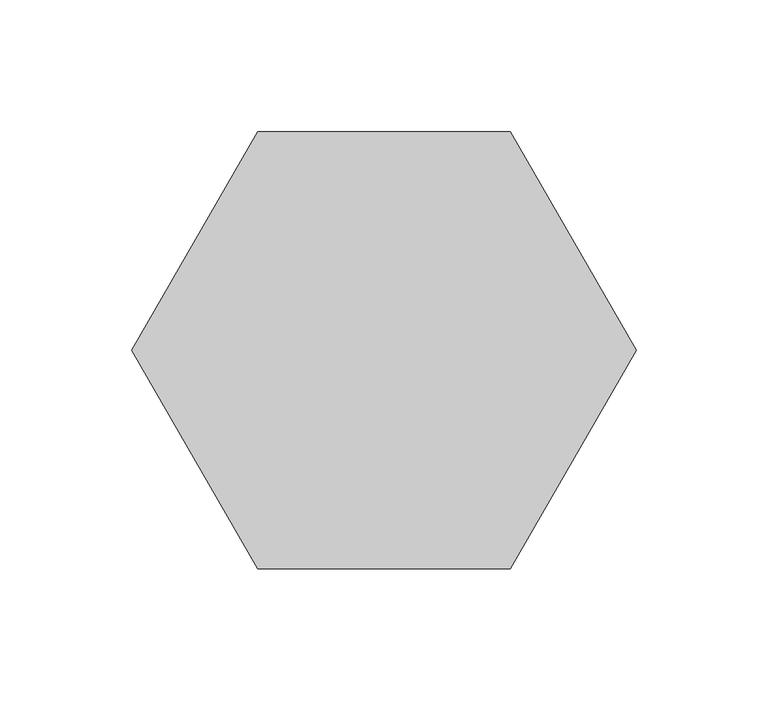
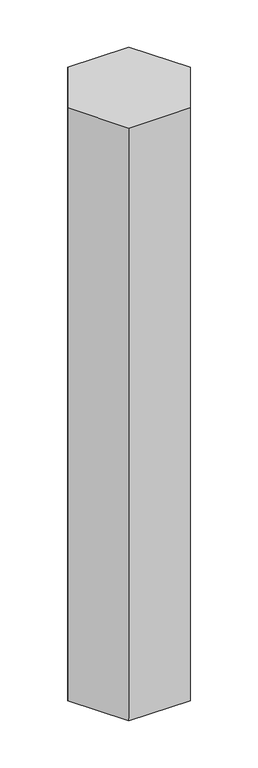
"""IFC4 building model written with IfcOpenShell, lengths in millimetres: geographic element geometry, Enscape AssetDefinition - Pathway Lamp 002 : Enscape AssetDefinition - Pathway Lamp 002."""

import ifcopenshell
import ifcopenshell.guid

model = None  # the IFC model being written
_history = None  # IfcOwnerHistory: only IFC2X3 demands one
_inside = {}  # id of a spatial element -> (the spatial element, [elements in it])
_under = {}  # id of a project, library or spatial element -> (it, [spatial elements below it])
_declared = {}  # id of a project -> (the project, [libraries it declares])
_typed = {}  # id of a type object -> (the type object, [elements of that type])
_made_of = {}  # id of a material, layer set ... -> (it, [elements and type objects made of it])


def new_model(schema):
    """Start an empty IFC model of exactly this schema.

    Asked for "IFC4X3", IfcOpenShell would pick the latest addendum, in which some entities
    have other attributes; the version numbers below select the first issue.
    IFC2X3 requires an IfcOwnerHistory on every rooted entity: one is made here for all.
    """
    global model, _history
    if schema == "IFC4X3":
        model = ifcopenshell.file(schema_version=(4, 3, 0, 0))
    else:
        model = ifcopenshell.file(schema=schema)
    _inside.clear()
    _under.clear()
    _declared.clear()
    _typed.clear()
    _made_of.clear()
    _history = None
    if model.schema == "IFC2X3":
        org = make("IfcOrganization", Name="unknown")
        user = make(
            "IfcPersonAndOrganization",
            ThePerson=make("IfcPerson", FamilyName="unknown"),
            TheOrganization=org,
        )
        app = make(
            "IfcApplication",
            ApplicationDeveloper=org,
            Version="unknown",
            ApplicationFullName="unknown",
            ApplicationIdentifier="unknown",
        )
        _history = make(
            "IfcOwnerHistory",
            OwningUser=user,
            OwningApplication=app,
            ChangeAction="ADDED",
            CreationDate=0,
        )
    return model


def make(cls, **values):
    """One entity of the class cls with the attributes given. An attribute that is None is left unset."""
    return model.create_entity(
        cls, **{name: value for name, value in values.items() if value is not None}
    )


def rooted(cls, **values):
    """An entity with a GlobalId (a new one), such as an element, a storey or a relation."""
    return make(cls, GlobalId=ifcopenshell.guid.new(), OwnerHistory=_history, **values)


def si_unit(unit_type, name, prefix=None):
    """IfcSIUnit, for example si_unit("LENGTHUNIT", "METRE", prefix="MILLI")."""
    return make("IfcSIUnit", UnitType=unit_type, Prefix=prefix, Name=name)


def assignment(units):
    """IfcUnitAssignment: the units of a project."""
    return None if units is None else make("IfcUnitAssignment", Units=units)


def point(xyz):
    """IfcCartesianPoint."""
    return None if xyz is None else make("IfcCartesianPoint", Coordinates=xyz)


def direction(xyz):
    """IfcDirection."""
    return None if xyz is None else make("IfcDirection", DirectionRatios=xyz)


def frame(location, z_axis=None, x_axis=None):
    """IfcAxis2Placement3D, a coordinate frame: its origin and axes. An axis left out is left unset."""
    return make(
        "IfcAxis2Placement3D",
        Location=point(location),
        Axis=direction(z_axis),
        RefDirection=direction(x_axis),
    )


def origin():
    """The frame at (0, 0, 0) with its axes left unset."""
    return frame((0.0, 0.0, 0.0))


def place(relative_to, where):
    """IfcLocalPlacement: puts the frame where relative to a parent placement (None: the world)."""
    return make(
        "IfcLocalPlacement", PlacementRelTo=relative_to, RelativePlacement=where
    )


def context(
    kind, dimensions, precision=None, world=None, true_north=None, identifier=None
):
    """IfcGeometricRepresentationContext, for example the 3D "Model" context."""
    return make(
        "IfcGeometricRepresentationContext",
        ContextIdentifier=identifier,
        ContextType=kind,
        CoordinateSpaceDimension=dimensions,
        Precision=precision,
        WorldCoordinateSystem=world,
        TrueNorth=true_north,
    )


def project(units=None, contexts=None):
    """IfcProject with its units and contexts."""
    return rooted(
        "IfcProject",
        Name="project",
        RepresentationContexts=contexts,
        UnitsInContext=assignment(units),
    )


def spatial(cls, under=None, at=None, **own):
    """A site, building, storey or space (cls), placed at a placement, below another one or the project."""
    s = rooted(cls, ObjectPlacement=at, **own)
    if under is not None:
        _under.setdefault(under.id(), (under, []))[1].append(s)
    return s


def point_list(points):
    """IfcCartesianPointList2D or 3D."""
    cls = (
        "IfcCartesianPointList2D" if len(points[0]) == 2 else "IfcCartesianPointList3D"
    )
    return make(cls, CoordList=points)


def triangles(points, corners, closed=None, point_numbers=None):
    """IfcTriangulatedFaceSet: each triangle names its three corners, points numbered from 1."""
    return make(
        "IfcTriangulatedFaceSet",
        Coordinates=point_list(points),
        Closed=closed,
        CoordIndex=corners,
        PnIndex=point_numbers,
    )


def shape(context_of_items, identifier, shape_type, items):
    """IfcShapeRepresentation: the items that make up one representation, for example the "Body"."""
    return make(
        "IfcShapeRepresentation",
        ContextOfItems=context_of_items,
        RepresentationIdentifier=identifier,
        RepresentationType=shape_type,
        Items=items,
    )


def source(mapping_origin, context_of_items, identifier, shape_type, items):
    """IfcRepresentationMap: a shape defined once, which mapped items show again and again."""
    return make(
        "IfcRepresentationMap",
        MappingOrigin=mapping_origin,
        MappedRepresentation=shape(context_of_items, identifier, shape_type, items),
    )


def transform(
    local_origin,
    x_axis=None,
    y_axis=None,
    z_axis=None,
    scale=None,
    scale2=None,
    scale3=None,
    uniform=True,
):
    """IfcCartesianTransformationOperator3D, or its non-uniform kind. x_axis, y_axis, z_axis: its Axis1, 2, 3."""
    if uniform:
        return make(
            "IfcCartesianTransformationOperator3D",
            Axis1=direction(x_axis),
            Axis2=direction(y_axis),
            LocalOrigin=point(local_origin),
            Scale=scale,
            Axis3=direction(z_axis),
        )
    return make(
        "IfcCartesianTransformationOperator3DnonUniform",
        Axis1=direction(x_axis),
        Axis2=direction(y_axis),
        LocalOrigin=point(local_origin),
        Scale=scale,
        Axis3=direction(z_axis),
        Scale2=scale2,
        Scale3=scale3,
    )


def mapped(mapping_source, mapping_target):
    """IfcMappedItem: shows the shape of a source again, moved by a transform."""
    return make(
        "IfcMappedItem", MappingSource=mapping_source, MappingTarget=mapping_target
    )


def made_of(thing, what):
    """Note that an element or type object is made of a material, layer set ...; save() writes the relation."""
    if what is not None:
        _made_of.setdefault(what.id(), (what, []))[1].append(thing)
    return thing


def element(
    cls,
    number,
    at=None,
    inside=None,
    cuts=None,
    type_object=None,
    material=None,
    context=None,
    identifier="Body",
    shape_type=None,
    held_by="IfcProductDefinitionShape",
    body=None,
    shapes=None,
    **own,
):
    """One element of the class cls, such as IfcWall. Its Tag is "e" and its number.

    at: its placement. inside: the storey or other place that contains it. cuts: it is an
    opening in that element (IfcRelVoidsElement). A single representation is given by context,
    identifier, shape_type and body (its items); several are given by shapes. held_by: the class
    of the entity that holds the representations. save() writes the other relations.
    """
    e = rooted(cls, Tag="e%d" % number, ObjectPlacement=at, **own)
    if body is not None:
        shapes = [shape(context, identifier, shape_type, body)]
    if shapes is not None:
        e.Representation = make(held_by, Representations=shapes)
    if inside is not None:
        _inside.setdefault(inside.id(), (inside, []))[1].append(e)
    if cuts is not None:
        rooted(
            "IfcRelVoidsElement", RelatingBuildingElement=cuts, RelatedOpeningElement=e
        )
    if type_object is not None:
        _typed.setdefault(type_object.id(), (type_object, []))[1].append(e)
    return made_of(e, material)


def aggregate(whole, parts):
    """IfcRelAggregates: a whole, such as a stair, and the parts it consists of."""
    return rooted("IfcRelAggregates", RelatingObject=whole, RelatedObjects=parts)


def save(model, path):
    """Write the relations noted so far, then the file.

    IfcRelAggregates (storeys below a building ...), IfcRelContainedInSpatialStructure (elements
    in a storey), IfcRelDefinesByType, IfcRelAssociatesMaterial and IfcRelDeclares: one each for
    every whole, place, type object, material and project.
    """
    for whole, parts in _under.values():
        aggregate(whole, parts)
    for where, things in _inside.values():
        rooted(
            "IfcRelContainedInSpatialStructure",
            RelatedElements=things,
            RelatingStructure=where,
        )
    for kind, things in _typed.values():
        rooted("IfcRelDefinesByType", RelatedObjects=things, RelatingType=kind)
    for what, things in _made_of.values():
        rooted("IfcRelAssociatesMaterial", RelatedObjects=things, RelatingMaterial=what)
    for by, libraries in _declared.values():
        rooted("IfcRelDeclares", RelatingContext=by, RelatedDefinitions=libraries)
    model.write(path)


def geographic_element_c9fdac9c(model_context):
    return source(origin(), model_context, "Body", "Tessellation", [
        triangles([(-47.7953203, -82.7836189, 0.0), (95.5896595, 0.0, 0.0), (47.7953203, 82.7836189, 977.7092171), (95.5896595, 0.0, 977.7092171), (-47.7953203, 82.7836189, 977.7092171), (47.7953203, -82.7836189, 977.7092171), (47.7953203, 82.7836189, 0.0), (-47.7953203, 82.7836189, 0.0), (-95.5896595, 0.0, 0.0), (-95.5896595, 0.0, 977.7092171), (-47.7953203, -82.7836189, 977.7092171), (47.7953203, -82.7836189, 0.0)], [[4, 5, 11], [5, 10, 11], [4, 3, 5], [12, 2, 4], [1, 12, 6], [9, 1, 11], [8, 9, 10], [7, 8, 5], [2, 7, 3], [1, 8, 2], [8, 7, 2], [1, 9, 8], [6, 4, 11], [12, 4, 6], [1, 6, 11], [9, 11, 10], [8, 10, 5], [7, 5, 3], [2, 3, 4], [12, 1, 2]]),
    ])


if __name__ == "__main__":
    model = new_model("IFC4")
    model_context = context("Model", 3, world=origin())
    ifc_project = project(units=[si_unit("LENGTHUNIT", "METRE", prefix="MILLI")], contexts=[model_context])
    site = spatial("IfcSite", under=ifc_project)
    building = spatial("IfcBuilding", under=site)
    placement = place(None, origin())
    geographic_element_shape = geographic_element_c9fdac9c(model_context)
    element("IfcGeographicElement", 1, ObjectType="Enscape AssetDefinition - Pathway Lamp 002 : Enscape AssetDefinition - Pathway Lamp 002", at=placement, inside=building, context=model_context, shape_type="MappedRepresentation", body=[
        mapped(geographic_element_shape, transform((0.0, 0.0, 0.0), x_axis=(1.0, 0.0, 0.0), y_axis=(0.0, 1.0, 0.0), z_axis=(0.0, 0.0, 1.0))),
    ])
    save(model, "model.ifc")
